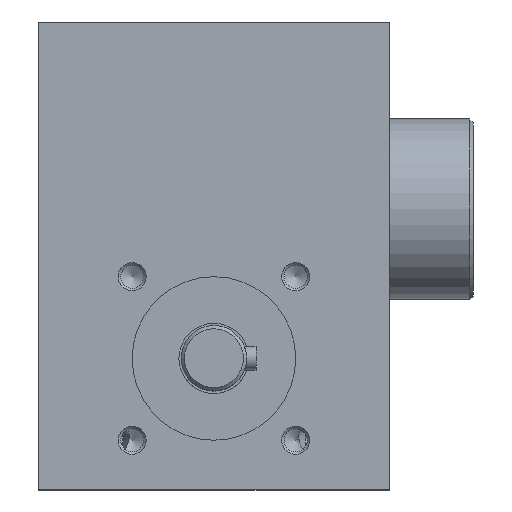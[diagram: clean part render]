
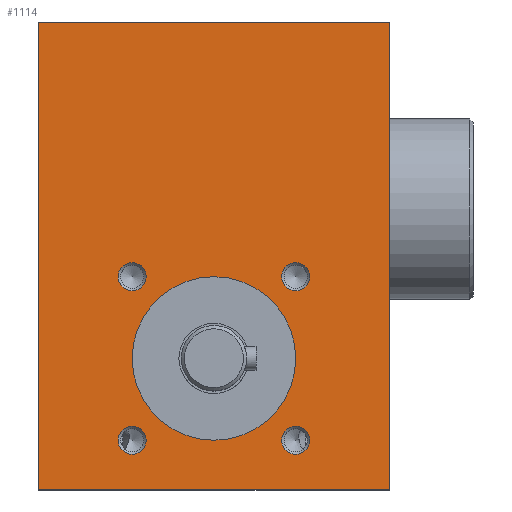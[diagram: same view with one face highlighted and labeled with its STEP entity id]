
A CAD part, top view. The second image highlights one B-rep face of the part: STEP entity #1114.
In plain terms, the highlighted planar face has unit normal (0, 0, 1).
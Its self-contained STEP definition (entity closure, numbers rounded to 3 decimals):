
#80=PLANE('',#1258);
#104=LINE('',#1833,#132);
#108=LINE('',#1871,#136);
#110=LINE('',#2087,#138);
#111=LINE('',#2088,#139);
#132=VECTOR('',#1407,100.);
#136=VECTOR('',#1449,75.);
#138=VECTOR('',#1559,100.);
#139=VECTOR('',#1560,75.);
#199=FACE_BOUND('',#414,.T.);
#200=FACE_BOUND('',#415,.T.);
#201=FACE_BOUND('',#416,.T.);
#202=FACE_BOUND('',#417,.T.);
#203=FACE_BOUND('',#418,.T.);
#290=FACE_OUTER_BOUND('',#413,.T.);
#413=EDGE_LOOP('',(#939,#940,#941,#942));
#414=EDGE_LOOP('',(#943));
#415=EDGE_LOOP('',(#944));
#416=EDGE_LOOP('',(#945));
#417=EDGE_LOOP('',(#946));
#418=EDGE_LOOP('',(#947));
#518=CIRCLE('',#1223,3.);
#520=CIRCLE('',#1227,3.);
#532=CIRCLE('',#1251,3.);
#535=CIRCLE('',#1257,3.);
#536=CIRCLE('',#1259,17.5);
#585=VERTEX_POINT('',#1830);
#586=VERTEX_POINT('',#1832);
#601=VERTEX_POINT('',#1869);
#613=VERTEX_POINT('',#1934);
#615=VERTEX_POINT('',#1950);
#631=VERTEX_POINT('',#2074);
#634=VERTEX_POINT('',#2083);
#635=VERTEX_POINT('',#2086);
#636=VERTEX_POINT('',#2089);
#696=EDGE_CURVE('',#586,#585,#104,.T.);
#712=EDGE_CURVE('',#585,#601,#108,.T.);
#726=EDGE_CURVE('',#613,#613,#518,.T.);
#729=EDGE_CURVE('',#615,#615,#520,.T.);
#749=EDGE_CURVE('',#631,#631,#532,.T.);
#752=EDGE_CURVE('',#634,#634,#535,.T.);
#753=EDGE_CURVE('',#601,#635,#110,.T.);
#754=EDGE_CURVE('',#635,#586,#111,.T.);
#755=EDGE_CURVE('',#636,#636,#536,.T.);
#939=ORIENTED_EDGE('',*,*,#696,.T.);
#940=ORIENTED_EDGE('',*,*,#712,.T.);
#941=ORIENTED_EDGE('',*,*,#753,.T.);
#942=ORIENTED_EDGE('',*,*,#754,.T.);
#943=ORIENTED_EDGE('',*,*,#749,.F.);
#944=ORIENTED_EDGE('',*,*,#752,.F.);
#945=ORIENTED_EDGE('',*,*,#729,.F.);
#946=ORIENTED_EDGE('',*,*,#726,.F.);
#947=ORIENTED_EDGE('',*,*,#755,.F.);
#1114=ADVANCED_FACE('',(#290,#199,#200,#201,#202,#203),#80,.T.);
#1223=AXIS2_PLACEMENT_3D('',#1935,#1487,#1488);
#1227=AXIS2_PLACEMENT_3D('',#1951,#1495,#1496);
#1251=AXIS2_PLACEMENT_3D('',#2075,#1543,#1544);
#1257=AXIS2_PLACEMENT_3D('',#2084,#1555,#1556);
#1258=AXIS2_PLACEMENT_3D('',#2085,#1557,#1558);
#1259=AXIS2_PLACEMENT_3D('',#2090,#1561,#1562);
#1407=DIRECTION('',(0.,-1.,0.));
#1449=DIRECTION('',(1.,0.,0.));
#1487=DIRECTION('center_axis',(0.,0.,1.));
#1488=DIRECTION('ref_axis',(1.,0.,0.));
#1495=DIRECTION('center_axis',(0.,0.,1.));
#1496=DIRECTION('ref_axis',(1.,0.,0.));
#1543=DIRECTION('center_axis',(0.,0.,1.));
#1544=DIRECTION('ref_axis',(1.,0.,0.));
#1555=DIRECTION('center_axis',(0.,0.,1.));
#1556=DIRECTION('ref_axis',(1.,0.,0.));
#1557=DIRECTION('center_axis',(0.,0.,1.));
#1558=DIRECTION('ref_axis',(1.,0.,0.));
#1559=DIRECTION('',(0.,1.,0.));
#1560=DIRECTION('',(-1.,0.,0.));
#1561=DIRECTION('center_axis',(0.,0.,1.));
#1562=DIRECTION('ref_axis',(1.,0.,0.));
#1830=CARTESIAN_POINT('',(0.,-60.,42.5));
#1832=CARTESIAN_POINT('',(0.,40.,42.5));
#1833=CARTESIAN_POINT('',(0.,40.,42.5));
#1869=CARTESIAN_POINT('',(75.,-60.,42.5));
#1871=CARTESIAN_POINT('',(0.,-60.,42.5));
#1934=CARTESIAN_POINT('',(23.,-49.5,42.5));
#1935=CARTESIAN_POINT('Origin',(20.,-49.5,42.5));
#1950=CARTESIAN_POINT('',(58.,-49.5,42.5));
#1951=CARTESIAN_POINT('Origin',(55.,-49.5,42.5));
#2074=CARTESIAN_POINT('',(23.,-14.5,42.5));
#2075=CARTESIAN_POINT('Origin',(20.,-14.5,42.5));
#2083=CARTESIAN_POINT('',(58.,-14.5,42.5));
#2084=CARTESIAN_POINT('Origin',(55.,-14.5,42.5));
#2085=CARTESIAN_POINT('Origin',(0.,-60.,42.5));
#2086=CARTESIAN_POINT('',(75.,40.,42.5));
#2087=CARTESIAN_POINT('',(75.,-60.,42.5));
#2088=CARTESIAN_POINT('',(75.,40.,42.5));
#2089=CARTESIAN_POINT('',(55.,-32.,42.5));
#2090=CARTESIAN_POINT('Origin',(37.5,-32.,42.5));
